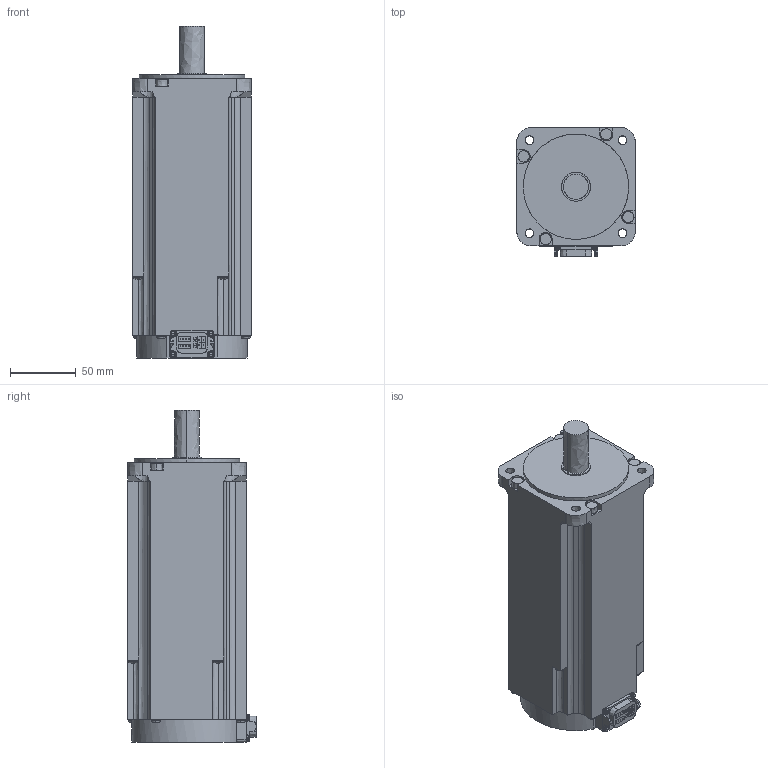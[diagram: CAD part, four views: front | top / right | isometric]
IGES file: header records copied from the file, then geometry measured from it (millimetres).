
Start section:  PTC IGES file: hk-kt202wb_-_asm.igs
Global section: file name: hk-kt202wb_-_asm.igs; native system: Creo Parametric by PTC Inc.; preprocessor: 2016380; author: XE90682; organization: Unknown; date: 20190116.143015; units: millimetre
Bounding box: 90 x 97.65 x 252.3 mm (x, y, z)
Volume: 1497406.5 mm3; surface area: 92843.5 mm2
Topology: 1 solids, 1 shells, 397 faces, 1028 edges, 652 vertices
Faces by surface type: bspline 397
